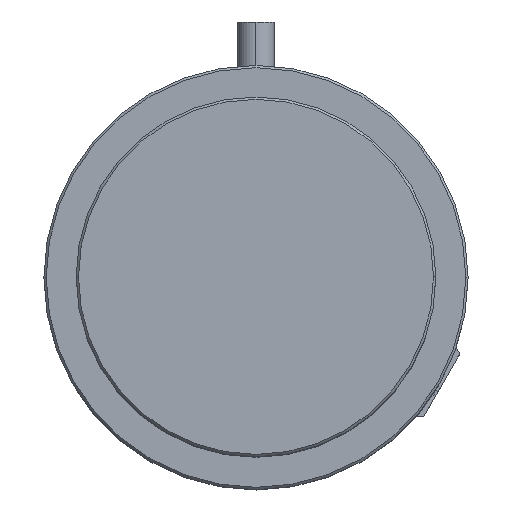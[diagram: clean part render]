
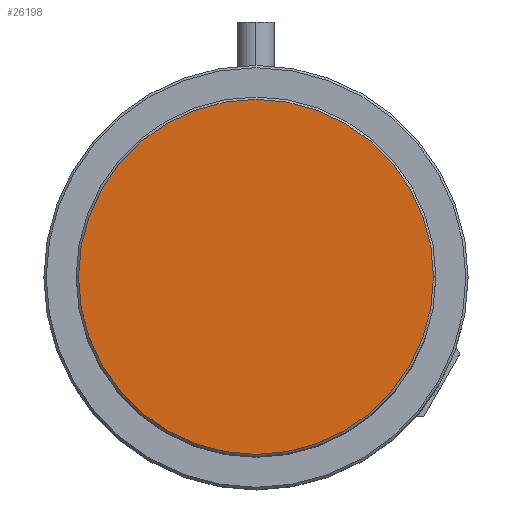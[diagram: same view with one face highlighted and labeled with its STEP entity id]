
A CAD part, top view. The second image highlights one B-rep face of the part: STEP entity #26198.
In plain terms, the highlighted planar face has unit normal (0, 0, 1).
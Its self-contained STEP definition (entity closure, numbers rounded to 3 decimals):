
#993 = VERTEX_POINT ( 'NONE', #56220 ) ;
#3121 = CARTESIAN_POINT ( 'NONE',  ( 0., 39., 0. ) ) ;
#8038 = EDGE_CURVE ( 'NONE', #25843, #993, #11627, .T. ) ;
#8522 = DIRECTION ( 'NONE',  ( -1., 0., 0. ) ) ;
#11627 = CIRCLE ( 'NONE', #32271, 38.5 ) ;
#14849 = CIRCLE ( 'NONE', #63928, 38.5 ) ;
#16901 = EDGE_CURVE ( 'NONE', #993, #25843, #14849, .T. ) ;
#19593 = DIRECTION ( 'NONE',  ( -1., 0., 0. ) ) ;
#22860 = EDGE_LOOP ( 'NONE', ( #23553, #39071 ) ) ;
#23553 = ORIENTED_EDGE ( 'NONE', *, *, #8038, .T. ) ;
#25843 = VERTEX_POINT ( 'NONE', #36557 ) ;
#26044 = DIRECTION ( 'NONE',  ( 0., 0., 1. ) ) ;
#26198 = ADVANCED_FACE ( 'NONE', ( #65843 ), #29411, .F. ) ;
#29411 = PLANE ( 'NONE',  #59394 ) ;
#32271 = AXIS2_PLACEMENT_3D ( 'NONE', #69980, #40008, #8522 ) ;
#36557 = CARTESIAN_POINT ( 'NONE',  ( -38.5, 0., 0. ) ) ;
#39071 = ORIENTED_EDGE ( 'NONE', *, *, #16901, .T. ) ;
#40008 = DIRECTION ( 'NONE',  ( 0., 0., 1. ) ) ;
#51016 = CARTESIAN_POINT ( 'NONE',  ( 0., 0., 0. ) ) ;
#54058 = DIRECTION ( 'NONE',  ( 0., 0., -1. ) ) ;
#56220 = CARTESIAN_POINT ( 'NONE',  ( 38.5, 0., 0. ) ) ;
#59394 = AXIS2_PLACEMENT_3D ( 'NONE', #3121, #54058, #77168 ) ;
#63928 = AXIS2_PLACEMENT_3D ( 'NONE', #51016, #26044, #19593 ) ;
#65843 = FACE_OUTER_BOUND ( 'NONE', #22860, .T. ) ;
#69980 = CARTESIAN_POINT ( 'NONE',  ( 0., 0., 0. ) ) ;
#77168 = DIRECTION ( 'NONE',  ( -1., 0., 0. ) ) ;
